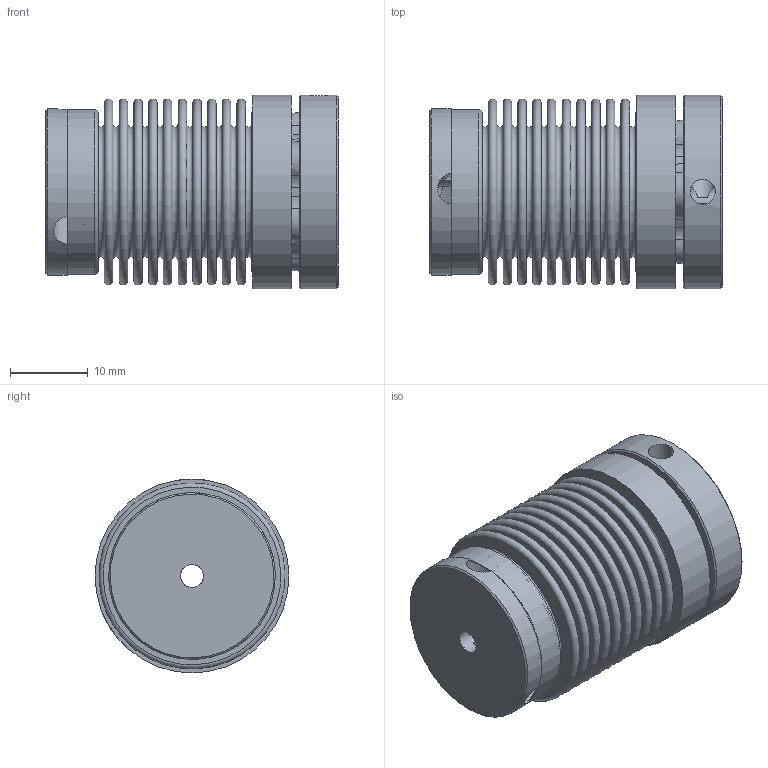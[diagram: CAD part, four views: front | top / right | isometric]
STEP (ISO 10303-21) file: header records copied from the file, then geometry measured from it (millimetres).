
FILE_DESCRIPTION( ( 'KBE1/14 - N7H8 - N14H7 - 98 Sh' ), '1' );
FILE_NAME( 'K:/Konstruktion/Fertigungszeichnungen/Metallbalgkupplung/KB1P/20/KB1P-20-37.stp', '14.12.2015', ( 'KBK-Antriebstechnik' ), ( 'KBK-Antriebstechnik' ), 'PSStep 16.0.42', 'Solid Edge St6', ' ' );
FILE_SCHEMA( ( 'AUTOMOTIVE_DESIGN { 1 0 10303 214 1 1 1 1 }' ) );
Length unit declared in the file: millimetre
Products named in the file (5): Assem1; Stecknabe KB1P-20; Balgaufnahme KB2P-20 für Step; MN20_Standard_2; BL20_Standard_0
Assembly tree (4 placements, depth 2):
  Assem1
    Stecknabe KB1P-20
    Balgaufnahme KB2P-20 für Step
    MN20_Standard_2
    BL20_Standard_0
Bounding box: 37.7 x 25 x 25 mm (x, y, z)
Volume: 7858.9 mm3; surface area: 16786 mm2
Topology: 4 solids, 4 shells, 173 faces, 369 edges, 243 vertices
Faces by surface type: plane 57, cone 56, torus 46, cylinder 14
Full cylindrical faces by diameter (mm): 3 x2, 3.242 x2, 4 x2, 21 x3, 21.3 x2, 21.5 x1, 25 x2
Entity records: 6252 total; most frequent: CARTESIAN_POINT 1110, DIRECTION 844, ORIENTED_EDGE 576, AXIS2_PLACEMENT_3D 396, EDGE_LOOP 296, EDGE_CURVE 288, VERTEX_POINT 250, FACE_OUTER_BOUND 233
